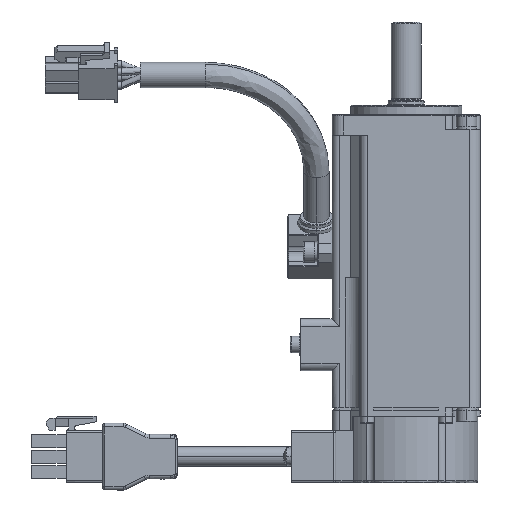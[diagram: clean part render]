
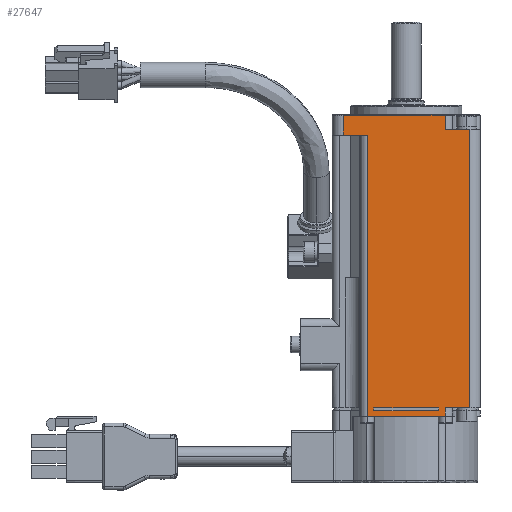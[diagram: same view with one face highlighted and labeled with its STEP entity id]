
A CAD part, left-side view. The second image highlights one B-rep face of the part: STEP entity #27647.
In plain terms, the highlighted planar face has unit normal (-1, 0, 0).
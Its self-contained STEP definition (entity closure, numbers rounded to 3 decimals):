
#47 = LINE ( 'NONE', #48572, #1387 ) ;
#319 = CARTESIAN_POINT ( 'NONE',  ( -20., -17., 21.25 ) ) ;
#597 = ORIENTED_EDGE ( 'NONE', *, *, #68159, .T. ) ;
#624 = ORIENTED_EDGE ( 'NONE', *, *, #62722, .T. ) ;
#1258 = CARTESIAN_POINT ( 'NONE',  ( -20., 0., 21.25 ) ) ;
#1387 = VECTOR ( 'NONE', #15722, 1000. ) ;
#1417 = DIRECTION ( 'NONE',  ( 0., 1., 0. ) ) ;
#1507 = VECTOR ( 'NONE', #2716, 1000. ) ;
#1764 = EDGE_CURVE ( 'NONE', #52307, #26067, #15325, .T. ) ;
#1971 = CARTESIAN_POINT ( 'NONE',  ( -20., 10.5, -21.95 ) ) ;
#2716 = DIRECTION ( 'NONE',  ( 0., 0., -1. ) ) ;
#3036 = ORIENTED_EDGE ( 'NONE', *, *, #1764, .T. ) ;
#4160 = VERTEX_POINT ( 'NONE', #12923 ) ;
#5598 = CARTESIAN_POINT ( 'NONE',  ( -20., 8.75, -58.35 ) ) ;
#5725 = EDGE_CURVE ( 'NONE', #25011, #67353, #24912, .T. ) ;
#5851 = DIRECTION ( 'NONE',  ( 0., 0., 1. ) ) ;
#7685 = EDGE_CURVE ( 'NONE', #48601, #65839, #47792, .T. ) ;
#8311 = ORIENTED_EDGE ( 'NONE', *, *, #27800, .T. ) ;
#8513 = LINE ( 'NONE', #31014, #63407 ) ;
#9427 = DIRECTION ( 'NONE',  ( 0., -1., 0. ) ) ;
#9604 = CARTESIAN_POINT ( 'NONE',  ( -20., -20., -59.85 ) ) ;
#10498 = EDGE_LOOP ( 'NONE', ( #13821, #8311, #35052, #24364, #58976, #20758, #50124, #50556, #624, #41543 ) ) ;
#11872 = VECTOR ( 'NONE', #29279, 1000. ) ;
#12170 = LINE ( 'NONE', #56630, #11872 ) ;
#12774 = CARTESIAN_POINT ( 'NONE',  ( -20., -17., -57.55 ) ) ;
#12918 = CARTESIAN_POINT ( 'NONE',  ( -20., 0., 21.25 ) ) ;
#12923 = CARTESIAN_POINT ( 'NONE',  ( -20., -10.5, -57.55 ) ) ;
#13550 = CARTESIAN_POINT ( 'NONE',  ( -20., -8.75, -57.55 ) ) ;
#13630 = VECTOR ( 'NONE', #39885, 1000. ) ;
#13743 = CARTESIAN_POINT ( 'NONE',  ( -20., -8.75, 21.25 ) ) ;
#13821 = ORIENTED_EDGE ( 'NONE', *, *, #16750, .F. ) ;
#15230 = CARTESIAN_POINT ( 'NONE',  ( -20., 0., -57.55 ) ) ;
#15325 = LINE ( 'NONE', #15230, #55639 ) ;
#15330 = CARTESIAN_POINT ( 'NONE',  ( -20., 10.5, 15.95 ) ) ;
#15530 = DIRECTION ( 'NONE',  ( 0., -1., 0. ) ) ;
#15722 = DIRECTION ( 'NONE',  ( 0., 0., 1. ) ) ;
#16239 = CARTESIAN_POINT ( 'NONE',  ( -20., 0., -58.35 ) ) ;
#16750 = EDGE_CURVE ( 'NONE', #28407, #25011, #60756, .T. ) ;
#16883 = VECTOR ( 'NONE', #5851, 1000. ) ;
#17359 = LINE ( 'NONE', #319, #16883 ) ;
#17597 = EDGE_LOOP ( 'NONE', ( #54194, #3036, #33553, #597 ) ) ;
#17801 = LINE ( 'NONE', #13743, #1507 ) ;
#18198 = LINE ( 'NONE', #16239, #37941 ) ;
#18969 = FACE_OUTER_BOUND ( 'NONE', #10498, .T. ) ;
#19057 = EDGE_CURVE ( 'NONE', #50581, #20929, #35639, .T. ) ;
#19636 = VECTOR ( 'NONE', #9427, 1000. ) ;
#20183 = DIRECTION ( 'NONE',  ( 0., 1., 0. ) ) ;
#20620 = CARTESIAN_POINT ( 'NONE',  ( -20., -10.5, 21.25 ) ) ;
#20702 = EDGE_CURVE ( 'NONE', #27089, #50581, #17359, .T. ) ;
#20758 = ORIENTED_EDGE ( 'NONE', *, *, #62564, .T. ) ;
#20910 = CARTESIAN_POINT ( 'NONE',  ( -20., 17., 21.25 ) ) ;
#20929 = VERTEX_POINT ( 'NONE', #53981 ) ;
#21227 = EDGE_CURVE ( 'NONE', #4160, #27089, #12170, .T. ) ;
#24364 = ORIENTED_EDGE ( 'NONE', *, *, #20702, .T. ) ;
#24912 = LINE ( 'NONE', #1971, #24974 ) ;
#24974 = VECTOR ( 'NONE', #36336, 1000. ) ;
#25011 = VERTEX_POINT ( 'NONE', #43683 ) ;
#26067 = VERTEX_POINT ( 'NONE', #13550 ) ;
#27089 = VERTEX_POINT ( 'NONE', #12774 ) ;
#27647 = ADVANCED_FACE ( 'NONE', ( #43793, #18969 ), #51540, .T. ) ;
#27800 = EDGE_CURVE ( 'NONE', #28407, #4160, #47, .T. ) ;
#28079 = VECTOR ( 'NONE', #53754, 1000. ) ;
#28149 = CARTESIAN_POINT ( 'NONE',  ( -20., -10.5, -59.85 ) ) ;
#28161 = VERTEX_POINT ( 'NONE', #36113 ) ;
#28407 = VERTEX_POINT ( 'NONE', #28149 ) ;
#29279 = DIRECTION ( 'NONE',  ( 0., -1., 0. ) ) ;
#29742 = DIRECTION ( 'NONE',  ( 0., -1., 0. ) ) ;
#29840 = LINE ( 'NONE', #20910, #28079 ) ;
#31014 = CARTESIAN_POINT ( 'NONE',  ( -20., 8.75, 21.25 ) ) ;
#33470 = CARTESIAN_POINT ( 'NONE',  ( -20., -17., 17.45 ) ) ;
#33553 = ORIENTED_EDGE ( 'NONE', *, *, #63480, .T. ) ;
#34973 = VECTOR ( 'NONE', #20183, 1000. ) ;
#35052 = ORIENTED_EDGE ( 'NONE', *, *, #21227, .T. ) ;
#35639 = LINE ( 'NONE', #63778, #34973 ) ;
#36113 = CARTESIAN_POINT ( 'NONE',  ( -20., -8.75, -58.35 ) ) ;
#36336 = DIRECTION ( 'NONE',  ( 0., 0., 1. ) ) ;
#36496 = DIRECTION ( 'NONE',  ( 0., 0., 1. ) ) ;
#37638 = CARTESIAN_POINT ( 'NONE',  ( -20., 17., 21.25 ) ) ;
#37941 = VECTOR ( 'NONE', #49083, 1000. ) ;
#39885 = DIRECTION ( 'NONE',  ( 0., 0., 1. ) ) ;
#41034 = LINE ( 'NONE', #58627, #19636 ) ;
#41543 = ORIENTED_EDGE ( 'NONE', *, *, #5725, .F. ) ;
#42428 = DIRECTION ( 'NONE',  ( 0., 1., 0. ) ) ;
#43458 = CARTESIAN_POINT ( 'NONE',  ( -20., 17., 15.95 ) ) ;
#43683 = CARTESIAN_POINT ( 'NONE',  ( -20., 10.5, -59.85 ) ) ;
#43793 = FACE_BOUND ( 'NONE', #17597, .T. ) ;
#45387 = CARTESIAN_POINT ( 'NONE',  ( -20., -10.5, 21.25 ) ) ;
#47792 = LINE ( 'NONE', #1258, #48035 ) ;
#48035 = VECTOR ( 'NONE', #1417, 1000. ) ;
#48572 = CARTESIAN_POINT ( 'NONE',  ( -20., -10.5, 21.25 ) ) ;
#48601 = VERTEX_POINT ( 'NONE', #20620 ) ;
#49083 = DIRECTION ( 'NONE',  ( 0., 1., 0. ) ) ;
#50124 = ORIENTED_EDGE ( 'NONE', *, *, #7685, .T. ) ;
#50556 = ORIENTED_EDGE ( 'NONE', *, *, #63659, .T. ) ;
#50581 = VERTEX_POINT ( 'NONE', #33470 ) ;
#51540 = PLANE ( 'NONE',  #69257 ) ;
#52307 = VERTEX_POINT ( 'NONE', #55068 ) ;
#53754 = DIRECTION ( 'NONE',  ( 0., 0., -1. ) ) ;
#53981 = CARTESIAN_POINT ( 'NONE',  ( -20., -10.5, 17.45 ) ) ;
#54194 = ORIENTED_EDGE ( 'NONE', *, *, #70879, .T. ) ;
#55068 = CARTESIAN_POINT ( 'NONE',  ( -20., 8.75, -57.55 ) ) ;
#55639 = VECTOR ( 'NONE', #15530, 1000. ) ;
#56630 = CARTESIAN_POINT ( 'NONE',  ( -20., 0., -57.55 ) ) ;
#57364 = VERTEX_POINT ( 'NONE', #43458 ) ;
#57420 = VERTEX_POINT ( 'NONE', #5598 ) ;
#58627 = CARTESIAN_POINT ( 'NONE',  ( -20., 0., 15.95 ) ) ;
#58976 = ORIENTED_EDGE ( 'NONE', *, *, #19057, .T. ) ;
#59125 = LINE ( 'NONE', #45387, #13630 ) ;
#60487 = VECTOR ( 'NONE', #42428, 1000. ) ;
#60756 = LINE ( 'NONE', #9604, #60487 ) ;
#62552 = DIRECTION ( 'NONE',  ( -1., 0., 0. ) ) ;
#62564 = EDGE_CURVE ( 'NONE', #20929, #48601, #59125, .T. ) ;
#62722 = EDGE_CURVE ( 'NONE', #57364, #67353, #41034, .T. ) ;
#63407 = VECTOR ( 'NONE', #36496, 1000. ) ;
#63480 = EDGE_CURVE ( 'NONE', #26067, #28161, #17801, .T. ) ;
#63659 = EDGE_CURVE ( 'NONE', #65839, #57364, #29840, .T. ) ;
#63778 = CARTESIAN_POINT ( 'NONE',  ( -20., 0., 17.45 ) ) ;
#65839 = VERTEX_POINT ( 'NONE', #37638 ) ;
#67353 = VERTEX_POINT ( 'NONE', #15330 ) ;
#68159 = EDGE_CURVE ( 'NONE', #28161, #57420, #18198, .T. ) ;
#69257 = AXIS2_PLACEMENT_3D ( 'NONE', #12918, #62552, #29742 ) ;
#70879 = EDGE_CURVE ( 'NONE', #57420, #52307, #8513, .T. ) ;
